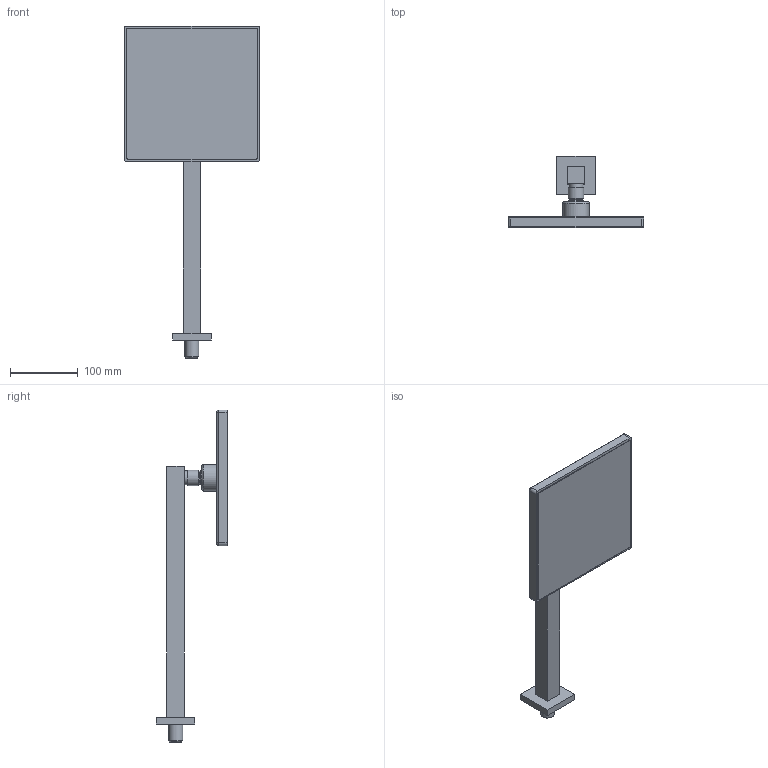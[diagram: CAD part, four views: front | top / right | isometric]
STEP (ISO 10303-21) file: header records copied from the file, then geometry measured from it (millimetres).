
FILE_DESCRIPTION (( 'STEP AP203' ), '1' );
FILE_NAME ('12303810.STEP', '2022-10-05T16:15:07', ( '' ), ( '' ), 'SwSTEP 2.0', 'SolidWorks 2018', '' );
FILE_SCHEMA (( 'CONFIG_CONTROL_DESIGN' ));
Length unit declared in the file: millimetre
Products named in the file (1): 12303810
Bounding box: 200 x 105.7 x 489.5 mm (x, y, z)
Surface area: 143537.6 mm2 (no closed solid volume)
Topology: 0 solids, 2 shells, 52 faces, 120 edges, 77 vertices
Faces by surface type: plane 25, cylinder 17, torus 8, cone 2
Full cylindrical faces by diameter (mm): 17.6 x1, 20.6 x2, 22.8 x1, 39 x1
Entity records: 1489 total; most frequent: DIRECTION 258, CARTESIAN_POINT 237, ORIENTED_EDGE 213, EDGE_CURVE 108, AXIS2_PLACEMENT_3D 97, VERTEX_POINT 76, EDGE_LOOP 71, LINE 64
